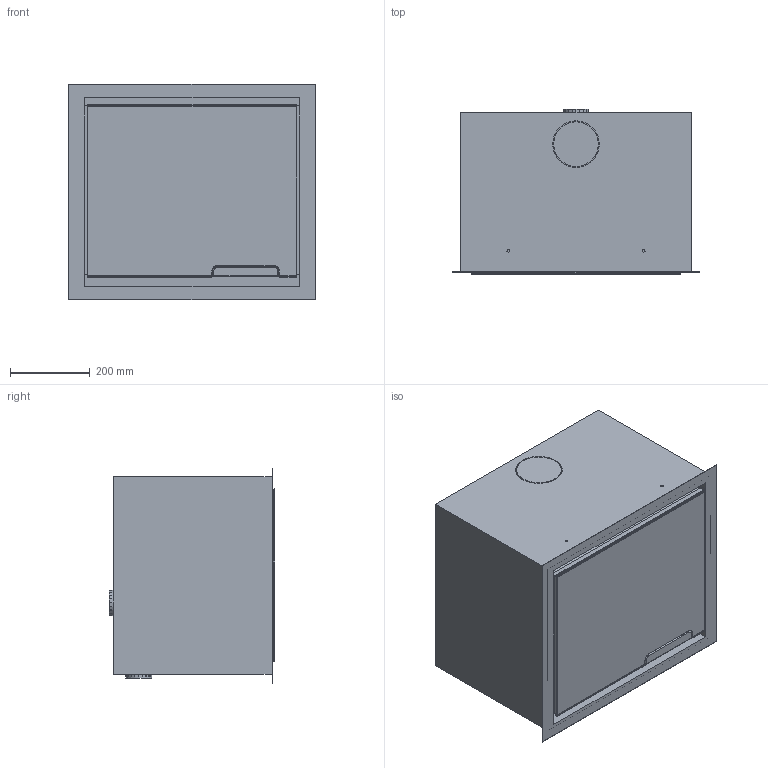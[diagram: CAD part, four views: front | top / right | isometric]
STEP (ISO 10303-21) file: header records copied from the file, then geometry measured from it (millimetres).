
FILE_DESCRIPTION( ( 'Unknown' ), '1' );
FILE_NAME( 'C:/Users/Andersc/AppData/Roaming/Unigraphics Solutions/Solid Edge/Insight/insight/Insight/interior models/Ci6 Glass Assembly.stp', 'Unknown', ( 'Unknown' ), ( 'Unknown' ), 'PSStep 17.0.49', 'Unknown', ' ' );
FILE_SCHEMA( ( 'AUTOMOTIVE_DESIGN { 1 0 10303 214 1 1 1 1 }' ) );
Length unit declared in the file: millimetre
Products named in the file (11): Assem1; IM Stomme Ci6; IM Lucka Ci6; IM Glasgållare Ci6; IM Thermotte Ci6; IM Gjutjärnsbotten Ci6; IM Inre Glas Ci6; IM Främre Glas Ci6
Assembly tree (10 placements, depth 2):
  Assem1
    IM Stomme Ci6
    IM Lucka Ci6
    IM Glasgållare Ci6
    IM Glasgållare Ci6
    IM Glasgållare Ci6
    IM Glasgållare Ci6
    IM Thermotte Ci6
    IM Gjutjärnsbotten Ci6
    IM Inre Glas Ci6
    IM Främre Glas Ci6
Bounding box: 619.26 x 416.62 x 542.86 mm (x, y, z)
Volume: 91397113.7 mm3; surface area: 4506084.3 mm2
Topology: 10 solids, 10 shells, 1200 faces, 3220 edges, 2101 vertices
Faces by surface type: plane 961, cylinder 118, extrusion 65, bspline 52, cone 2, torus 2
Entity records: 53064 total; most frequent: CARTESIAN_POINT 14178, ORIENTED_EDGE 6436, DIRECTION 5281, EDGE_CURVE 3218, VECTOR 2477, LINE 2412, VERTEX_POINT 2101, AXIS2_PLACEMENT_3D 1402
